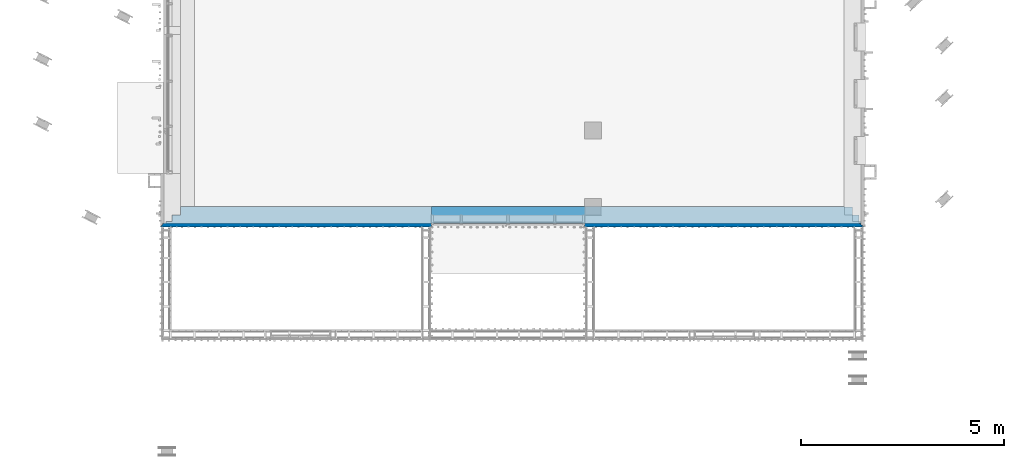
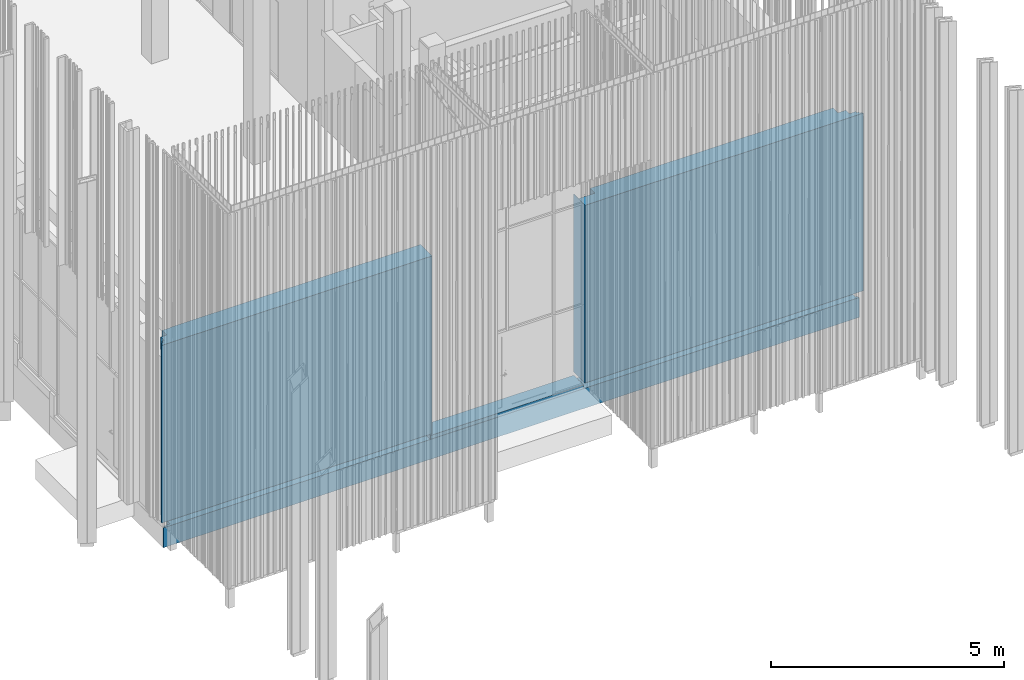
# One storey, part 148 of 390: 3 walls.
"""IFC2X3 building model written with IfcOpenShell, lengths in millimetres."""

import ifcopenshell
import ifcopenshell.guid

model = None  # the IFC model being written
_history = None  # IfcOwnerHistory: only IFC2X3 demands one
_inside = {}  # id of a spatial element -> (the spatial element, [elements in it])
_under = {}  # id of a project, library or spatial element -> (it, [spatial elements below it])
_declared = {}  # id of a project -> (the project, [libraries it declares])
_typed = {}  # id of a type object -> (the type object, [elements of that type])
_made_of = {}  # id of a material, layer set ... -> (it, [elements and type objects made of it])


def new_model(schema):
    """Start an empty IFC model of exactly this schema.

    Asked for "IFC4X3", IfcOpenShell would pick the latest addendum, in which some entities
    have other attributes; the version numbers below select the first issue.
    IFC2X3 requires an IfcOwnerHistory on every rooted entity: one is made here for all.
    """
    global model, _history
    if schema == "IFC4X3":
        model = ifcopenshell.file(schema_version=(4, 3, 0, 0))
    else:
        model = ifcopenshell.file(schema=schema)
    _inside.clear()
    _under.clear()
    _declared.clear()
    _typed.clear()
    _made_of.clear()
    _history = None
    if model.schema == "IFC2X3":
        org = make("IfcOrganization", Name="unknown")
        user = make(
            "IfcPersonAndOrganization",
            ThePerson=make("IfcPerson", FamilyName="unknown"),
            TheOrganization=org,
        )
        app = make(
            "IfcApplication",
            ApplicationDeveloper=org,
            Version="unknown",
            ApplicationFullName="unknown",
            ApplicationIdentifier="unknown",
        )
        _history = make(
            "IfcOwnerHistory",
            OwningUser=user,
            OwningApplication=app,
            ChangeAction="ADDED",
            CreationDate=0,
        )
    return model


def make(cls, **values):
    """One entity of the class cls with the attributes given. An attribute that is None is left unset."""
    return model.create_entity(
        cls, **{name: value for name, value in values.items() if value is not None}
    )


def entity(cls, *values):
    """Any entity or typed value of the class cls, its attributes in the order of the schema. None: left unset."""
    e = model.create_entity(cls)
    for i, value in enumerate(values):
        if value is not None:
            e[i] = value
    return e


def rooted(cls, **values):
    """An entity with a GlobalId (a new one), such as an element, a storey or a relation."""
    return make(cls, GlobalId=ifcopenshell.guid.new(), OwnerHistory=_history, **values)


def si_unit(unit_type, name, prefix=None):
    """IfcSIUnit, for example si_unit("LENGTHUNIT", "METRE", prefix="MILLI")."""
    return make("IfcSIUnit", UnitType=unit_type, Prefix=prefix, Name=name)


def converted_unit(unit_type, name, factor, base, dimensions=None, offset=None):
    """IfcConversionBasedUnit, such as the inch: factor (a typed value) times the base unit."""
    return make(
        "IfcConversionBasedUnit"
        if offset is None
        else "IfcConversionBasedUnitWithOffset",
        ConversionOffset=offset,
        Dimensions=None
        if dimensions is None
        else entity("IfcDimensionalExponents", *dimensions),
        UnitType=unit_type,
        Name=name,
        ConversionFactor=make(
            "IfcMeasureWithUnit", ValueComponent=factor, UnitComponent=base
        ),
    )


def derived_unit(unit_type, elements):
    """IfcDerivedUnit: a product of units, each with its exponent."""
    return make(
        "IfcDerivedUnit",
        Elements=[
            make("IfcDerivedUnitElement", Unit=unit, Exponent=power)
            for unit, power in elements
        ],
        UnitType=unit_type,
    )


def money_unit(currency):
    """IfcMonetaryUnit."""
    return make("IfcMonetaryUnit", Currency=currency)


def assignment(units):
    """IfcUnitAssignment: the units of a project."""
    return None if units is None else make("IfcUnitAssignment", Units=units)


def point(xyz):
    """IfcCartesianPoint."""
    return None if xyz is None else make("IfcCartesianPoint", Coordinates=xyz)


def direction(xyz):
    """IfcDirection."""
    return None if xyz is None else make("IfcDirection", DirectionRatios=xyz)


def frame(location, z_axis=None, x_axis=None):
    """IfcAxis2Placement3D, a coordinate frame: its origin and axes. An axis left out is left unset."""
    return make(
        "IfcAxis2Placement3D",
        Location=point(location),
        Axis=direction(z_axis),
        RefDirection=direction(x_axis),
    )


def origin_with_axes():
    """The frame at (0, 0, 0) with the z axis (0, 0, 1) and the x axis (1, 0, 0) written out."""
    return frame((0.0, 0.0, 0.0), z_axis=(0.0, 0.0, 1.0), x_axis=(1.0, 0.0, 0.0))


def place(relative_to, where):
    """IfcLocalPlacement: puts the frame where relative to a parent placement (None: the world)."""
    return make(
        "IfcLocalPlacement", PlacementRelTo=relative_to, RelativePlacement=where
    )


def context(
    kind, dimensions, precision=None, world=None, true_north=None, identifier=None
):
    """IfcGeometricRepresentationContext, for example the 3D "Model" context."""
    return make(
        "IfcGeometricRepresentationContext",
        ContextIdentifier=identifier,
        ContextType=kind,
        CoordinateSpaceDimension=dimensions,
        Precision=precision,
        WorldCoordinateSystem=world,
        TrueNorth=true_north,
    )


def subcontext(parent, identifier, kind, view, scale=None):
    """IfcGeometricRepresentationSubContext, for example "Body" below "Model"."""
    return make(
        "IfcGeometricRepresentationSubContext",
        ContextIdentifier=identifier,
        ContextType=kind,
        ParentContext=parent,
        TargetScale=scale,
        TargetView=view,
    )


def project(units=None, contexts=None):
    """IfcProject with its units and contexts."""
    return rooted(
        "IfcProject",
        Name="project",
        RepresentationContexts=contexts,
        UnitsInContext=assignment(units),
    )


def spatial(cls, under=None, at=None, **own):
    """A site, building, storey or space (cls), placed at a placement, below another one or the project."""
    s = rooted(cls, ObjectPlacement=at, **own)
    if under is not None:
        _under.setdefault(under.id(), (under, []))[1].append(s)
    return s


def faces_of(points, faces, orient=None, outer=None):
    """IfcFace entities. A face is a list of loops; a loop is a list of indices into points, from 0.

    orient and outer hold one flag for each loop. By default every Orientation is true, the
    first loop of a face is its IfcFaceOuterBound and the others are IfcFaceBound.
    """
    made = []
    for i, loops in enumerate(faces):
        bounds = []
        for j, loop in enumerate(loops):
            is_outer = j == 0 if outer is None else outer[i][j]
            bounds.append(
                make(
                    "IfcFaceOuterBound" if is_outer else "IfcFaceBound",
                    Bound=make("IfcPolyLoop", Polygon=[points[k] for k in loop]),
                    Orientation=True if orient is None else orient[i][j],
                )
            )
        made.append(make("IfcFace", Bounds=bounds))
    return made


def faceted_brep(points, faces, orient=None, outer=None, voids=None):
    """IfcFacetedBrep: a solid bounded by flat faces; with voids (closed shells), ...WithVoids."""
    shared = [point(p) for p in points]
    hull = make("IfcClosedShell", CfsFaces=faces_of(shared, faces, orient, outer))
    if voids is None:
        return make("IfcFacetedBrep", Outer=hull)
    return make(
        "IfcFacetedBrepWithVoids",
        Outer=hull,
        Voids=[
            make(cls, CfsFaces=faces_of(shared, fs, o, b)) for cls, fs, o, b in voids
        ],
    )


def shape(context_of_items, identifier, shape_type, items):
    """IfcShapeRepresentation: the items that make up one representation, for example the "Body"."""
    return make(
        "IfcShapeRepresentation",
        ContextOfItems=context_of_items,
        RepresentationIdentifier=identifier,
        RepresentationType=shape_type,
        Items=items,
    )


def material(Name=None, Category=None):
    """IfcMaterial."""
    return make("IfcMaterial", Name=Name, Category=Category)


def material_list(materials):
    """IfcMaterialList."""
    return make("IfcMaterialList", Materials=materials)


def made_of(thing, what):
    """Note that an element or type object is made of a material, layer set ...; save() writes the relation."""
    if what is not None:
        _made_of.setdefault(what.id(), (what, []))[1].append(thing)
    return thing


def type_object(cls, material=None, **own):
    """A type object (cls), such as IfcWallType, which elements share."""
    return made_of(rooted(cls, **own), material)


def element(
    cls,
    number,
    at=None,
    inside=None,
    cuts=None,
    type_object=None,
    material=None,
    context=None,
    identifier="Body",
    shape_type=None,
    held_by="IfcProductDefinitionShape",
    body=None,
    shapes=None,
    **own,
):
    """One element of the class cls, such as IfcWall. Its Tag is "e" and its number.

    at: its placement. inside: the storey or other place that contains it. cuts: it is an
    opening in that element (IfcRelVoidsElement). A single representation is given by context,
    identifier, shape_type and body (its items); several are given by shapes. held_by: the class
    of the entity that holds the representations. save() writes the other relations.
    """
    e = rooted(cls, Tag="e%d" % number, ObjectPlacement=at, **own)
    if body is not None:
        shapes = [shape(context, identifier, shape_type, body)]
    if shapes is not None:
        e.Representation = make(held_by, Representations=shapes)
    if inside is not None:
        _inside.setdefault(inside.id(), (inside, []))[1].append(e)
    if cuts is not None:
        rooted(
            "IfcRelVoidsElement", RelatingBuildingElement=cuts, RelatedOpeningElement=e
        )
    if type_object is not None:
        _typed.setdefault(type_object.id(), (type_object, []))[1].append(e)
    return made_of(e, material)


def aggregate(whole, parts):
    """IfcRelAggregates: a whole, such as a stair, and the parts it consists of."""
    return rooted("IfcRelAggregates", RelatingObject=whole, RelatedObjects=parts)


def save(model, path):
    """Write the relations noted so far, then the file.

    IfcRelAggregates (storeys below a building ...), IfcRelContainedInSpatialStructure (elements
    in a storey), IfcRelDefinesByType, IfcRelAssociatesMaterial and IfcRelDeclares: one each for
    every whole, place, type object, material and project.
    """
    for whole, parts in _under.values():
        aggregate(whole, parts)
    for where, things in _inside.values():
        rooted(
            "IfcRelContainedInSpatialStructure",
            RelatedElements=things,
            RelatingStructure=where,
        )
    for kind, things in _typed.values():
        rooted("IfcRelDefinesByType", RelatedObjects=things, RelatingType=kind)
    for what, things in _made_of.values():
        rooted("IfcRelAssociatesMaterial", RelatedObjects=things, RelatingMaterial=what)
    for by, libraries in _declared.values():
        rooted("IfcRelDeclares", RelatingContext=by, RelatedDefinitions=libraries)
    model.write(path)


model = new_model("IFC2X3")

# Units and contexts
model_context = context("Model", 3, precision=1e-05, world=origin_with_axes(), true_north=direction((0.0, 1.0)))
body_context = subcontext(model_context, "Body", "Model", "MODEL_VIEW")
ifc_project = project(units=[si_unit("LENGTHUNIT", "METRE", prefix="MILLI"), si_unit("AREAUNIT", "SQUARE_METRE"), si_unit("VOLUMEUNIT", "CUBIC_METRE"), converted_unit("PLANEANGLEUNIT", "DEGREE", entity("IfcPlaneAngleMeasure", 0.0174532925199), si_unit("PLANEANGLEUNIT", "RADIAN"), dimensions=[0, 0, 0, 0, 0, 0, 0]), si_unit("SOLIDANGLEUNIT", "STERADIAN"), money_unit("EUR"), converted_unit("TIMEUNIT", "Year", entity("IfcTimeMeasure", 31556926.0), si_unit("TIMEUNIT", "SECOND"), dimensions=[0, 0, 1, 0, 0, 0, 0]), si_unit("MASSUNIT", "GRAM", prefix="KILO"), si_unit("THERMODYNAMICTEMPERATUREUNIT", "DEGREE_CELSIUS"), si_unit("LUMINOUSINTENSITYUNIT", "LUMEN"), si_unit("ENERGYUNIT", "JOULE", prefix="MEGA"), derived_unit("THERMALCONDUCTANCEUNIT", [(si_unit("POWERUNIT", "WATT"), 1), (si_unit("LENGTHUNIT", "METRE"), -1), (si_unit("THERMODYNAMICTEMPERATUREUNIT", "KELVIN"), -1)]), derived_unit("SPECIFICHEATCAPACITYUNIT", [(si_unit("ENERGYUNIT", "JOULE"), 1), (si_unit("MASSUNIT", "GRAM", prefix="KILO"), -1), (si_unit("THERMODYNAMICTEMPERATUREUNIT", "KELVIN"), -1)]), derived_unit("MASSDENSITYUNIT", [(si_unit("MASSUNIT", "GRAM", prefix="KILO"), 1), (si_unit("VOLUMEUNIT", "CUBIC_METRE"), -1)])], contexts=[model_context])

# Site, building, storey
site_placement = place(None, origin_with_axes())
site = spatial("IfcSite", under=ifc_project, at=site_placement, Name="Site", CompositionType="ELEMENT")
building_placement = place(site_placement, origin_with_axes())
building = spatial("IfcBuilding", under=site, at=building_placement, Name="Building", CompositionType="ELEMENT")
storey_placement = place(building_placement, origin_with_axes())
storey = spatial("IfcBuildingStorey", under=building, at=storey_placement, Name="1 korrus", CompositionType="ELEMENT", Elevation=0.0)

# Walls
ifc_material_1 = material(Name="Krohv - Lubjakivi")
ifc_material_2 = material(Name="Raudbetoon - Konstruktsioon")
ifc_material_3 = material(Name="Soojustus - Plastik Kõva")
ifc_material_4 = material(Name="Membraan - Veekindel")
ifc_material_list_1 = material_list([ifc_material_1, ifc_material_2, ifc_material_3, ifc_material_3, ifc_material_4, ifc_material_4])
wall_type_1 = type_object("IfcWallType", Name="VS-04", PredefinedType="NOTDEFINED")
wall_1_placement = place(storey_placement, frame((122909.999995, 45760.0000092, -620.0), z_axis=(0.0, 0.0, 1.0), x_axis=(1.0, 0.0, 0.0)))
element("IfcWall", 1, at=wall_1_placement, inside=storey, type_object=wall_type_1, material=ifc_material_list_1, Name="VS-03", context=body_context, shape_type="Brep", body=[
    faceted_brep([(16390.0000036, -1.5074377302e-06, 520.0), (0.0, 0.0, 520.0), (-1.06581410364e-09, -10.0, 520.0), (16390.0000036, -10.0000015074, 520.0), (16390.0000036, -1.5074377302e-06, 0.0), (0.0, 0.0, 0.0), (-1.06581410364e-09, -10.0, 0.0), (16390.0000036, -10.0000015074, 0.0)], [[[0, 1, 2, 3]], [[4, 5, 1, 0]], [[2, 1, 5, 6]], [[3, 2, 6, 7]], [[3, 7, 4, 0]], [[7, 6, 5, 4]]]),
    faceted_brep([(16590.0000036, -10.0000015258, 520.0), (-10.0000000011, -9.99999999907, 520.0), (-10.0000000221, -209.999999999, 520.0), (16590.0000036, -210.000001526, 520.0), (16590.0000036, -10.0000015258, 0.0), (-10.0000000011, -9.99999999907, 0.0), (-10.0000000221, -209.999999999, 0.0), (16590.0000036, -210.000001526, 0.0)], [[[0, 1, 2, 3]], [[4, 5, 1, 0]], [[2, 1, 5, 6]], [[3, 2, 6, 7]], [[3, 7, 4, 0]], [[7, 6, 5, 4]]]),
    faceted_brep([(16740.0000036, -210.00000154, 520.0), (-210.000000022, -209.999999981, 520.0), (-210.000000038, -359.999999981, 520.0), (16740.0000036, -360.00000154, 520.0), (16740.0000036, -210.00000154, 0.0), (-210.000000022, -209.999999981, 0.0), (-210.000000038, -359.999999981, 0.0), (16740.0000036, -360.00000154, 0.0)], [[[0, 1, 2, 3]], [[4, 5, 1, 0]], [[2, 1, 5, 6]], [[3, 2, 6, 7]], [[3, 7, 4, 0]], [[7, 6, 5, 4]]]),
    faceted_brep([(16790.0000036, -360.000001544, 520.0), (-360.000000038, -359.999999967, 520.0), (-360.000000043, -409.999999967, 520.0), (16790.0000036, -410.000001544, 520.0), (16790.0000036, -360.000001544, 0.0), (-360.000000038, -359.999999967, 0.0), (-360.000000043, -409.999999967, 0.0), (16790.0000036, -410.000001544, 0.0)], [[[0, 1, 2, 3]], [[4, 5, 1, 0]], [[2, 1, 5, 6]], [[3, 2, 6, 7]], [[3, 7, 4, 0]], [[7, 6, 5, 4]]]),
    faceted_brep([(16795.0000036, -410.000001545, 520.0), (-410.000000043, -409.999999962, 520.0), (-410.000000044, -414.999999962, 520.0), (16795.0000036, -415.000001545, 520.0), (16795.0000036, -410.000001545, 0.0), (-410.000000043, -409.999999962, 0.0), (-410.000000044, -414.999999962, 0.0), (16795.0000036, -415.000001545, 0.0)], [[[0, 1, 2, 3]], [[4, 5, 1, 0]], [[2, 1, 5, 6]], [[3, 2, 6, 7]], [[3, 7, 4, 0]], [[7, 6, 5, 4]]]),
    faceted_brep([(16800.0000036, -415.000001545, 520.0), (-415.000000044, -414.999999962, 520.0), (-415.000000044, -419.999999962, 520.0), (16800.0000036, -420.000001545, 520.0), (16800.0000036, -415.000001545, 0.0), (-415.000000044, -414.999999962, 0.0), (-415.000000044, -419.999999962, 0.0), (16800.0000036, -420.000001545, 0.0)], [[[0, 1, 2, 3]], [[4, 5, 1, 0]], [[2, 1, 5, 6]], [[3, 2, 6, 7]], [[3, 7, 4, 0]], [[7, 6, 5, 4]]]),
])
ifc_material_5 = material(Name="Puit - Konstruktsioon")
ifc_material_6 = material(Name="Õhkvahe")
ifc_material_7 = material(Name="Raudbetoon - Toode")
ifc_material_list_2 = material_list([ifc_material_5, ifc_material_5, ifc_material_5, ifc_material_5, ifc_material_6, ifc_material_6, ifc_material_3, ifc_material_3, ifc_material_3, ifc_material_3, ifc_material_7, ifc_material_7, ifc_material_7, ifc_material_1, ifc_material_1])
wall_type_2 = type_object("IfcWallType", Name="VS-01", PredefinedType="NOTDEFINED")
wall_2_placement = place(storey_placement, frame((139289.999999, 45759.9999121, 99.9999970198), z_axis=(0.0, 0.0, 1.0), x_axis=(-1.0, 5.87949040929e-09, 0.0)))
element("IfcWall", 2, at=wall_2_placement, inside=storey, type_object=wall_type_2, material=ifc_material_list_2, Name="VS-01", context=body_context, shape_type="Brep", body=[
    faceted_brep([(10189.9999991, 497.000059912, 4645.00000164), (10189.9999992, 475.000059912, 4645.00000164), (16876.9999982, 475.000099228, 4645.00000082), (16876.9999981, 497.000099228, 4645.00000082), (10189.9999992, 475.000059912, 0.0), (10189.9999991, 497.000059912, 0.0), (16877.0000026, 475.000099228, 0.0), (16877.0000024, 497.000099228, 0.0)], [[[0, 1, 2, 3]], [[4, 1, 0, 5]], [[1, 4, 6, 2]], [[6, 7, 3, 2]], [[5, 0, 3, 7]], [[4, 5, 7, 6]]]),
    faceted_brep([(6409.99999799, 475.000037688, 0.0), (6409.99999799, 475.000037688, 4645.00000211), (-475.000002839, 474.999997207, 4645.00000297), (-475.000002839, 474.999997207, 0.0), (6409.99999786, 497.000037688, 4645.00000211), (6409.99999786, 497.000037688, 0.0), (-475.00000297, 496.999997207, 4645.00000297), (-475.00000297, 496.999997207, 0.0)], [[[0, 1, 2, 3]], [[4, 1, 0, 5]], [[1, 4, 6, 2]], [[6, 7, 3, 2]], [[5, 0, 3, 7]], [[4, 5, 7, 6]]]),
    faceted_brep([(10189.9999992, 475.000059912, 4645.00000297), (10189.9999994, 455.000059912, 4645.00000297), (16854.9999984, 455.000099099, 4645.00000298), (16854.9999982, 475.000099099, 4645.00000298), (10189.9999994, 455.000059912, 0.0), (10189.9999992, 475.000059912, 0.0), (16854.9999984, 455.000099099, 0.0), (16854.9999982, 475.000099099, 0.0)], [[[0, 1, 2, 3]], [[4, 1, 0, 5]], [[1, 4, 6, 2]], [[6, 7, 3, 2]], [[5, 0, 3, 7]], [[4, 5, 7, 6]]]),
    faceted_brep([(6409.9999981, 455.000037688, 0.0), (6409.9999981, 455.000037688, 4645.00000297), (-455.000002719, 454.999997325, 4645.00000296), (-455.000002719, 454.999997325, 0.0), (6409.99999799, 475.000037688, 4645.00000297), (6409.99999799, 475.000037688, 0.0), (-455.000002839, 474.999997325, 4645.00000296), (-455.000002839, 474.999997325, 0.0)], [[[0, 1, 2, 3]], [[4, 1, 0, 5]], [[1, 4, 6, 2]], [[2, 6, 7, 3]], [[5, 0, 3, 7]], [[4, 5, 7, 6]]]),
    faceted_brep([(10189.9999994, 455.000059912, 4645.00000297), (10189.9999996, 410.000059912, 4645.00000297), (16834.9999986, 410.000098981, 4645.00000298), (16834.9999984, 455.000098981, 4645.00000298), (10189.9999996, 410.000059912, 0.0), (10189.9999994, 455.000059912, 0.0), (16834.9999986, 410.000098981, 0.0), (16834.9999984, 455.000098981, 0.0)], [[[0, 1, 2, 3]], [[4, 1, 0, 5]], [[1, 4, 6, 2]], [[6, 7, 3, 2]], [[5, 0, 3, 7]], [[4, 5, 7, 6]]]),
    faceted_brep([(6409.99999837, 410.000037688, 0.0), (6409.99999837, 410.000037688, 4645.00000297), (-410.00000245, 409.999997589, 4645.00000296), (-410.00000245, 409.999997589, 0.0), (6409.9999981, 455.000037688, 4645.00000297), (6409.9999981, 455.000037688, 0.0), (-410.000002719, 454.999997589, 4645.00000296), (-410.000002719, 454.999997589, 0.0)], [[[0, 1, 2, 3]], [[4, 1, 0, 5]], [[1, 4, 6, 2]], [[2, 6, 7, 3]], [[5, 0, 3, 7]], [[4, 5, 7, 6]]]),
    faceted_brep([(10189.9999996, 410.000059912, 4645.00000297), (10189.9999999, 360.000059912, 4645.00000297), (16789.9999989, 360.000098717, 4645.00000298), (16789.9999986, 410.000098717, 4645.00000298), (10189.9999999, 360.000059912, 0.0), (10189.9999996, 410.000059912, 0.0), (16789.9999989, 360.000098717, 0.0), (16789.9999986, 410.000098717, 0.0)], [[[0, 1, 2, 3]], [[4, 1, 0, 5]], [[1, 4, 6, 2]], [[6, 7, 3, 2]], [[5, 0, 3, 7]], [[4, 5, 7, 6]]]),
    faceted_brep([(6409.99999866, 360.000037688, 0.0), (6409.99999866, 360.000037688, 4645.00000296), (-360.000002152, 359.999997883, 4645.00000295), (-360.000002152, 359.999997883, 0.0), (6409.99999837, 410.000037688, 4645.00000296), (6409.99999837, 410.000037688, 0.0), (-360.000002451, 409.999997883, 4645.00000295), (-360.000002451, 409.999997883, 0.0)], [[[0, 1, 2, 3]], [[4, 1, 0, 5]], [[1, 4, 6, 2]], [[2, 6, 7, 3]], [[5, 0, 3, 7]], [[4, 5, 7, 6]]]),
    faceted_brep([(10189.9999999, 360.000059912, 4645.00000296), (10190.0000008, 210.000059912, 4645.00000296), (16739.9999998, 210.000098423, 4645.00000298), (16739.9999989, 360.000098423, 4645.00000298), (10190.0000008, 210.000059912, 0.0), (10189.9999999, 360.000059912, 0.0), (16739.9999998, 210.000098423, 0.0), (16739.9999989, 360.000098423, 0.0)], [[[0, 1, 2, 3]], [[4, 1, 0, 5]], [[1, 4, 6, 2]], [[2, 6, 7, 3]], [[5, 0, 3, 7]], [[4, 5, 7, 6]]]),
    faceted_brep([(6409.99999954, 210.000037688, 0.0), (6409.99999954, 210.000037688, 4645.00000295), (-210.000001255, 209.999998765, 4645.00000293), (-210.000001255, 209.999998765, 0.0), (6409.99999866, 360.000037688, 4645.00000295), (6409.99999866, 360.000037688, 0.0), (-210.000002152, 359.999998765, 4645.00000293), (-210.000002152, 359.999998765, 0.0)], [[[0, 1, 2, 3]], [[4, 1, 0, 5]], [[1, 4, 6, 2]], [[3, 2, 6, 7]], [[5, 0, 3, 7]], [[4, 5, 7, 6]]]),
    faceted_brep([(10190.0000008, 209.999998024, 4645.00000295), (10190.000002, 10.000059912, 4645.00000295), (16590.000001, 10.0000975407, 4645.00000298), (16589.9999998, 210.000097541, 4645.00000298), (10190.000002, 10.000059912, 0.0), (10190.0000008, 209.999998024, 0.0), (16590.000001, 10.0000975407, 0.0), (16589.9999998, 210.000097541, 0.0)], [[[0, 1, 2, 3]], [[4, 1, 0, 5]], [[1, 4, 6, 2]], [[2, 6, 7, 3]], [[5, 0, 3, 7]], [[4, 5, 7, 6]]]),
    faceted_brep([(6410.00000072, 10.0000376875, 0.0), (6410.00000072, 10.0000376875, 4645.00000294), (6400.00000769, 10.0000376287, 4645.00000294), (6400.00000769, 10.0000376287, 0.0), (6409.99999954, 209.999939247, 4645.00000294), (6409.99999954, 209.999939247, 0.0), (6400.00000652, 209.999939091, 4645.00000294), (6400.00000652, 209.999939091, 0.0)], [[[0, 1, 2, 3]], [[4, 1, 0, 5]], [[1, 4, 6, 2]], [[2, 6, 7, 3]], [[5, 0, 3, 7]], [[4, 5, 7, 6]]]),
    faceted_brep([(6000.00000769, 10.0000352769, 0.0), (6000.00000769, 10.0000352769, 4645.00000293), (-10.0000000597, 9.9999999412, 4645.00000291), (-10.0000000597, 9.9999999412, 0.0), (6000.00000652, 209.99993674, 4645.00000293), (6000.00000652, 209.99993674, 0.0), (-10.0000012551, 209.999999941, 4645.00000291), (-10.0000012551, 209.999999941, 0.0)], [[[0, 1, 2, 3]], [[4, 1, 0, 5]], [[1, 4, 6, 2]], [[7, 3, 2, 6]], [[5, 0, 3, 7]], [[4, 5, 7, 6]]]),
    faceted_brep([(10190.000002, 10.000059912, 4645.00000295), (10190.000002, 5.9912011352e-05, 4645.00000295), (16390.000001, 9.63648503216e-05, 4645.00000298), (16390.000001, 10.0000963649, 4645.00000298), (10190.000002, 5.9912011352e-05, 0.0), (10190.000002, 10.000059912, 0.0), (16390.000001, 9.63648503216e-05, 0.0), (16390.000001, 10.0000963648, 0.0)], [[[0, 1, 2, 3]], [[4, 1, 0, 5]], [[1, 4, 6, 2]], [[2, 6, 7, 3]], [[5, 0, 3, 7]], [[4, 5, 7, 6]]]),
    faceted_brep([(5990.00000775, 3.52181501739e-05, 0.0), (5990.00000775, 3.52181501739e-05, 4645.00000293), (0.0, 0.0, 4645.00000291), (0.0, 0.0, 0.0), (5990.00000769, 10.0000352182, 4645.00000293), (5990.00000769, 10.0000352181, 0.0), (-5.97424332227e-08, 10.0, 4645.00000291), (-5.97424332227e-08, 10.0, 0.0)], [[[0, 1, 2, 3]], [[4, 1, 0, 5]], [[1, 4, 6, 2]], [[7, 3, 2, 6]], [[5, 0, 3, 7]], [[4, 5, 7, 6]]]),
])
ifc_material_8 = material(Name="Plaat - Sein")
ifc_material_list_3 = material_list([ifc_material_1, ifc_material_2, ifc_material_3, ifc_material_3, ifc_material_8])
wall_type_3 = type_object("IfcWallType", Name="VS-05", PredefinedType="NOTDEFINED")
wall_3_placement = place(storey_placement, frame((129099.999997, 45760.0000098, -100.0), z_axis=(0.0, 0.0, 1.0), x_axis=(1.0, 0.0, 0.0)))
element("IfcWall", 3, at=wall_3_placement, inside=storey, type_object=wall_type_3, material=ifc_material_list_3, Name="VS-05", context=body_context, shape_type="Brep", body=[
    faceted_brep([(3779.99999415, -3.57402996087e-07, 100.0), (3779.99999415, -3.57402996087e-07, 80.0), (3789.99999415, -3.58348017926e-07, 80.0), (3790.00000337, -3.58348017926e-07, 0.0), (0.0, 0.0, 0.0), (0.0, 0.0, 100.0), (3779.99999415, -10.0000003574, 100.0), (3779.99999415, -10.0000003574, 80.0), (3789.99999415, -10.0000003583, 80.0), (3790.00000337, -10.0000003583, 0.0), (-9.37916411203e-10, -10.0, 0.0), (-9.37916411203e-10, -10.0, 100.0)], [[[0, 1, 2, 3, 4, 5]], [[1, 0, 6, 7]], [[8, 2, 1, 7]], [[2, 8, 9, 3]], [[4, 3, 9, 10]], [[10, 11, 5, 4]], [[6, 0, 5, 11]], [[7, 6, 11, 10, 9, 8]]]),
    faceted_brep([(-1.98383531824e-08, -210.0, 100.0), (3790.00000335, -210.000000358, 100.0), (3790.00000337, -10.0000003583, 100.0), (-9.37916411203e-10, -10.0, 100.0), (-1.98383531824e-08, -210.0, 0.0), (3790.00000335, -210.000000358, 0.0), (3790.00000337, -10.0000003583, 0.0), (-9.37916411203e-10, -10.0, 0.0)], [[[0, 1, 2, 3]], [[4, 5, 1, 0]], [[2, 1, 5, 6]], [[3, 2, 6, 7]], [[4, 0, 3, 7]], [[7, 6, 5, 4]]]),
    faceted_brep([(3779.99999413, -210.000000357, 100.0), (3779.99999413, -210.000000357, 80.0), (3789.99999413, -209.999999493, 80.0), (3790.00000335, -210.000000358, 0.0), (-1.98383531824e-08, -210.0, 0.0), (-1.98383531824e-08, -210.0, 100.0), (3779.99999413, -219.999999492, 100.0), (3779.99999413, -219.999999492, 80.0), (3790.00000335, -219.999999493, 80.0), (3790.00000335, -219.999999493, 100.0), (3790.00000334, -360.000000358, 100.0), (3790.00000334, -360.000000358, 0.0), (-3.40207861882e-08, -360.0, 0.0), (-3.40207861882e-08, -360.0, 100.0)], [[[0, 1, 2, 3, 4, 5]], [[1, 0, 6, 7]], [[8, 2, 1, 7]], [[8, 9, 10, 11, 3, 2]], [[4, 3, 11, 12]], [[12, 13, 5, 4]], [[6, 0, 5, 13, 10, 9]], [[6, 9, 8, 7]], [[12, 11, 10, 13]]]),
    faceted_brep([(3790.00000333, -410.000000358, 100.0), (3790.00000334, -360.000000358, 100.0), (-3.40207861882e-08, -360.0, 100.0), (-3.87387899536e-08, -410.0, 100.0), (3790.00000333, -410.000000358, 0.0), (3790.00000334, -360.000000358, 0.0), (-3.40207861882e-08, -360.0, 0.0), (-3.87387899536e-08, -410.0, 0.0)], [[[0, 1, 2, 3]], [[0, 4, 5, 1]], [[1, 5, 6, 2]], [[3, 2, 6, 7]], [[4, 0, 3, 7]], [[5, 4, 7, 6]]]),
    faceted_brep([(3790.00000333, -418.000000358, 100.0), (3790.00000333, -410.000000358, 100.0), (-3.87387899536e-08, -410.0, 100.0), (-3.95061761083e-08, -418.0, 100.0), (3790.00000333, -418.000000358, 0.0), (3790.00000333, -410.000000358, 0.0), (-3.87387899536e-08, -410.0, 0.0), (-3.95061761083e-08, -418.0, 0.0)], [[[0, 1, 2, 3]], [[0, 4, 5, 1]], [[1, 5, 6, 2]], [[3, 2, 6, 7]], [[4, 0, 3, 7]], [[5, 4, 7, 6]]]),
])

save(model, "model.ifc")
